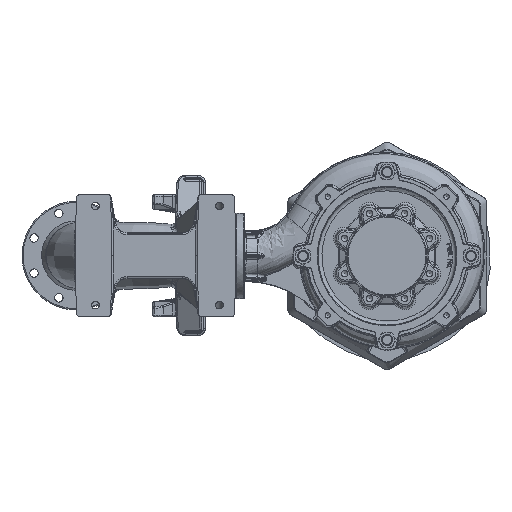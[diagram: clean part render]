
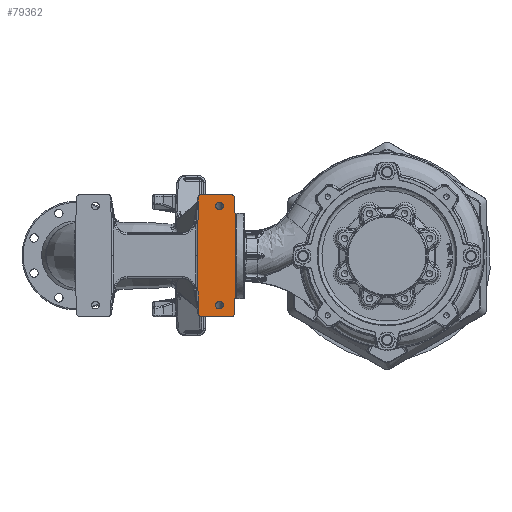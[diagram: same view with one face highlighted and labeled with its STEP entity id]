
A CAD part, front view. The second image highlights one B-rep face of the part: STEP entity #79362.
In plain terms, the highlighted planar face has unit normal (0, -1, 0).
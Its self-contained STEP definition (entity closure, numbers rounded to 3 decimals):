
#1542 = VERTEX_POINT ( 'NONE', #111274 ) ;
#4793 = DIRECTION ( 'NONE',  ( -0.017, 0., 1. ) ) ;
#5369 = DIRECTION ( 'NONE',  ( 0., -1., 0. ) ) ;
#11058 = EDGE_CURVE ( 'NONE', #158974, #108391, #215615, .T. ) ;
#17983 = CARTESIAN_POINT ( 'NONE',  ( -417.745, -925.894, 157.137 ) ) ;
#22093 = LINE ( 'NONE', #196019, #31658 ) ;
#26404 = DIRECTION ( 'NONE',  ( -1., 0., 0. ) ) ;
#31658 = VECTOR ( 'NONE', #113263, 1000. ) ;
#31960 = CARTESIAN_POINT ( 'NONE',  ( -410.74, -925.894, 150. ) ) ;
#33757 = VECTOR ( 'NONE', #96796, 1000. ) ;
#37206 = CARTESIAN_POINT ( 'NONE',  ( -364.131, -925.894, -140. ) ) ;
#38526 = EDGE_CURVE ( 'NONE', #39197, #1542, #184089, .T. ) ;
#38990 = ORIENTED_EDGE ( 'NONE', *, *, #236256, .T. ) ;
#39197 = VERTEX_POINT ( 'NONE', #153707 ) ;
#42495 = CARTESIAN_POINT ( 'NONE',  ( -421.924, -925.894, 0. ) ) ;
#42935 = ORIENTED_EDGE ( 'NONE', *, *, #11058, .T. ) ;
#43552 = DIRECTION ( 'NONE',  ( 0., -1., 0. ) ) ;
#45181 = AXIS2_PLACEMENT_3D ( 'NONE', #171584, #214373, #190779 ) ;
#46412 = AXIS2_PLACEMENT_3D ( 'NONE', #73519, #177208, #112713 ) ;
#46744 = DIRECTION ( 'NONE',  ( 0., -1., 0. ) ) ;
#48016 = DIRECTION ( 'NONE',  ( 0., 0., -1. ) ) ;
#49573 = VECTOR ( 'NONE', #4793, 1000. ) ;
#50108 = DIRECTION ( 'NONE',  ( 0., 0., -1. ) ) ;
#51883 = DIRECTION ( 'NONE',  ( 0., -1., 0. ) ) ;
#52199 = CARTESIAN_POINT ( 'NONE',  ( -364.131, -925.894, -130. ) ) ;
#55213 = VERTEX_POINT ( 'NONE', #70297 ) ;
#55873 = AXIS2_PLACEMENT_3D ( 'NONE', #150741, #5369, #48016 ) ;
#60484 = LINE ( 'NONE', #42495, #148396 ) ;
#61543 = CARTESIAN_POINT ( 'NONE',  ( -333.958, -925.894, 150. ) ) ;
#62460 = CARTESIAN_POINT ( 'NONE',  ( -421.924, -925.894, 0. ) ) ;
#67976 = EDGE_CURVE ( 'NONE', #238442, #238442, #144511, .T. ) ;
#70297 = CARTESIAN_POINT ( 'NONE',  ( -333.958, -925.894, -160. ) ) ;
#71315 = DIRECTION ( 'NONE',  ( 0., -1., 0. ) ) ;
#73268 = LINE ( 'NONE', #259131, #148167 ) ;
#73519 = CARTESIAN_POINT ( 'NONE',  ( -364.131, -925.894, 130. ) ) ;
#79362 = ADVANCED_FACE ( 'NONE', ( #175811, #149730, #162740 ), #235008, .T. ) ;
#82399 = EDGE_CURVE ( 'NONE', #111064, #99668, #254521, .T. ) ;
#84526 = ORIENTED_EDGE ( 'NONE', *, *, #82399, .T. ) ;
#84746 = EDGE_CURVE ( 'NONE', #55213, #157723, #104455, .T. ) ;
#86236 = CARTESIAN_POINT ( 'NONE',  ( -410.74, -925.894, 160. ) ) ;
#88706 = DIRECTION ( 'NONE',  ( 0., 0., -1. ) ) ;
#90105 = AXIS2_PLACEMENT_3D ( 'NONE', #52199, #71315, #174965 ) ;
#90483 = EDGE_CURVE ( 'NONE', #157723, #158974, #22093, .T. ) ;
#91869 = CARTESIAN_POINT ( 'NONE',  ( -410.74, -925.894, -160. ) ) ;
#92066 = EDGE_CURVE ( 'NONE', #180633, #111064, #73268, .T. ) ;
#93336 = CARTESIAN_POINT ( 'NONE',  ( -333.958, -925.894, 160. ) ) ;
#96085 = CARTESIAN_POINT ( 'NONE',  ( -321.339, -925.894, 0. ) ) ;
#96796 = DIRECTION ( 'NONE',  ( -0.017, 0., -1. ) ) ;
#97607 = EDGE_LOOP ( 'NONE', ( #158823 ) ) ;
#99668 = VERTEX_POINT ( 'NONE', #17983 ) ;
#104455 = CIRCLE ( 'NONE', #118015, 10. ) ;
#104509 = CARTESIAN_POINT ( 'NONE',  ( -333.958, -925.894, -150. ) ) ;
#106262 = CARTESIAN_POINT ( 'NONE',  ( -419.242, -925.894, 153.656 ) ) ;
#107267 = AXIS2_PLACEMENT_3D ( 'NONE', #31960, #51883, #50108 ) ;
#108391 = VERTEX_POINT ( 'NONE', #158829 ) ;
#111064 = VERTEX_POINT ( 'NONE', #86236 ) ;
#111274 = CARTESIAN_POINT ( 'NONE',  ( -410.74, -925.894, -160. ) ) ;
#111572 = ORIENTED_EDGE ( 'NONE', *, *, #156014, .T. ) ;
#112713 = DIRECTION ( 'NONE',  ( 0., 0., -1. ) ) ;
#113263 = DIRECTION ( 'NONE',  ( 0.017, 0., 1. ) ) ;
#115884 = CARTESIAN_POINT ( 'NONE',  ( -419.213, -925.894, 155.311 ) ) ;
#117821 = ORIENTED_EDGE ( 'NONE', *, *, #172717, .T. ) ;
#118015 = AXIS2_PLACEMENT_3D ( 'NONE', #104509, #43552, #187256 ) ;
#132248 = CARTESIAN_POINT ( 'NONE',  ( -419.242, -925.894, -153.656 ) ) ;
#133541 = ORIENTED_EDGE ( 'NONE', *, *, #211795, .T. ) ;
#133806 = EDGE_LOOP ( 'NONE', ( #84526, #117821, #198649, #38990, #111572, #178598, #133541, #163603, #173108, #42935, #235114, #142059 ) ) ;
#137022 = AXIS2_PLACEMENT_3D ( 'NONE', #61543, #186118, #184332 ) ;
#142059 = ORIENTED_EDGE ( 'NONE', *, *, #92066, .T. ) ;
#143649 = EDGE_CURVE ( 'NONE', #176212, #176212, #236030, .T. ) ;
#144511 = CIRCLE ( 'NONE', #46412, 10. ) ;
#145037 = VERTEX_POINT ( 'NONE', #132248 ) ;
#148167 = VECTOR ( 'NONE', #26404, 1000. ) ;
#148396 = VECTOR ( 'NONE', #228983, 1000. ) ;
#148702 = CARTESIAN_POINT ( 'NONE',  ( -410.74, -925.894, -150. ) ) ;
#149730 = FACE_BOUND ( 'NONE', #156583, .T. ) ;
#150741 = CARTESIAN_POINT ( 'NONE',  ( -414.243, -925.894, 153.568 ) ) ;
#153707 = CARTESIAN_POINT ( 'NONE',  ( -417.745, -925.894, -157.137 ) ) ;
#154516 = CIRCLE ( 'NONE', #137022, 10. ) ;
#155418 = DIRECTION ( 'NONE',  ( 0., 0., -1. ) ) ;
#155913 = CARTESIAN_POINT ( 'NONE',  ( -364.131, -925.894, 120. ) ) ;
#156014 = EDGE_CURVE ( 'NONE', #145037, #39197, #183750, .T. ) ;
#156583 = EDGE_LOOP ( 'NONE', ( #173004 ) ) ;
#157723 = VERTEX_POINT ( 'NONE', #198573 ) ;
#158556 = VERTEX_POINT ( 'NONE', #106262 ) ;
#158823 = ORIENTED_EDGE ( 'NONE', *, *, #67976, .F. ) ;
#158829 = CARTESIAN_POINT ( 'NONE',  ( -323.96, -925.894, 150.175 ) ) ;
#158974 = VERTEX_POINT ( 'NONE', #96085 ) ;
#162740 = FACE_OUTER_BOUND ( 'NONE', #133806, .T. ) ;
#163603 = ORIENTED_EDGE ( 'NONE', *, *, #84746, .T. ) ;
#170385 = LINE ( 'NONE', #115884, #33757 ) ;
#171584 = CARTESIAN_POINT ( 'NONE',  ( -414.243, -925.894, -153.568 ) ) ;
#172717 = EDGE_CURVE ( 'NONE', #99668, #158556, #235847, .T. ) ;
#173004 = ORIENTED_EDGE ( 'NONE', *, *, #143649, .F. ) ;
#173108 = ORIENTED_EDGE ( 'NONE', *, *, #90483, .T. ) ;
#174965 = DIRECTION ( 'NONE',  ( 0., 0., -1. ) ) ;
#175811 = FACE_BOUND ( 'NONE', #97607, .T. ) ;
#176212 = VERTEX_POINT ( 'NONE', #37206 ) ;
#177208 = DIRECTION ( 'NONE',  ( 0., -1., 0. ) ) ;
#178598 = ORIENTED_EDGE ( 'NONE', *, *, #38526, .T. ) ;
#180633 = VERTEX_POINT ( 'NONE', #93336 ) ;
#181805 = AXIS2_PLACEMENT_3D ( 'NONE', #212282, #46744, #155418 ) ;
#183750 = CIRCLE ( 'NONE', #45181, 5. ) ;
#184089 = CIRCLE ( 'NONE', #189744, 10. ) ;
#184332 = DIRECTION ( 'NONE',  ( 0., 0., -1. ) ) ;
#186118 = DIRECTION ( 'NONE',  ( 0., -1., 0. ) ) ;
#187256 = DIRECTION ( 'NONE',  ( 0., 0., -1. ) ) ;
#189744 = AXIS2_PLACEMENT_3D ( 'NONE', #148702, #256032, #88706 ) ;
#190779 = DIRECTION ( 'NONE',  ( 0., 0., -1. ) ) ;
#192949 = CARTESIAN_POINT ( 'NONE',  ( -321.339, -925.894, 0. ) ) ;
#194445 = EDGE_CURVE ( 'NONE', #158556, #249836, #170385, .T. ) ;
#196019 = CARTESIAN_POINT ( 'NONE',  ( -324.131, -925.894, -160. ) ) ;
#198573 = CARTESIAN_POINT ( 'NONE',  ( -323.96, -925.894, -150.175 ) ) ;
#198649 = ORIENTED_EDGE ( 'NONE', *, *, #194445, .T. ) ;
#211795 = EDGE_CURVE ( 'NONE', #1542, #55213, #219654, .T. ) ;
#212282 = CARTESIAN_POINT ( 'NONE',  ( -410.74, -925.894, 150. ) ) ;
#214373 = DIRECTION ( 'NONE',  ( 0., -1., 0. ) ) ;
#215615 = LINE ( 'NONE', #192949, #49573 ) ;
#219570 = EDGE_CURVE ( 'NONE', #108391, #180633, #154516, .T. ) ;
#219654 = LINE ( 'NONE', #91869, #222803 ) ;
#222803 = VECTOR ( 'NONE', #255619, 1000. ) ;
#228983 = DIRECTION ( 'NONE',  ( 0.017, 0., -1. ) ) ;
#235008 = PLANE ( 'NONE',  #181805 ) ;
#235114 = ORIENTED_EDGE ( 'NONE', *, *, #219570, .T. ) ;
#235847 = CIRCLE ( 'NONE', #55873, 5. ) ;
#236030 = CIRCLE ( 'NONE', #90105, 10. ) ;
#236256 = EDGE_CURVE ( 'NONE', #249836, #145037, #60484, .T. ) ;
#238442 = VERTEX_POINT ( 'NONE', #155913 ) ;
#249836 = VERTEX_POINT ( 'NONE', #62460 ) ;
#254521 = CIRCLE ( 'NONE', #107267, 10. ) ;
#255619 = DIRECTION ( 'NONE',  ( 1., 0., 0. ) ) ;
#256032 = DIRECTION ( 'NONE',  ( 0., -1., 0. ) ) ;
#259131 = CARTESIAN_POINT ( 'NONE',  ( -324.131, -925.894, 160. ) ) ;
